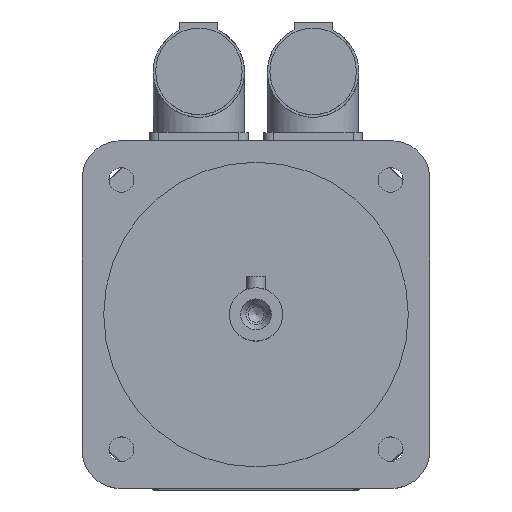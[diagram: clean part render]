
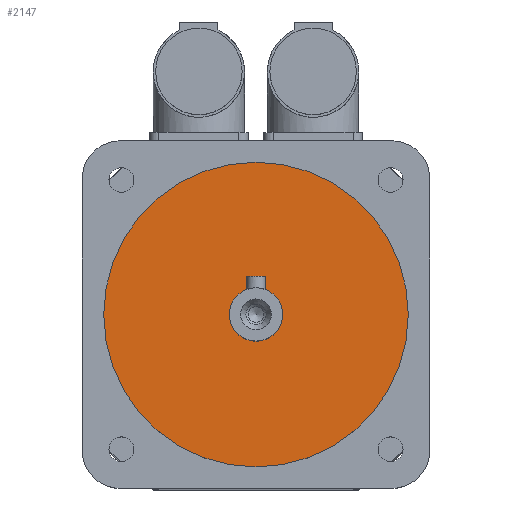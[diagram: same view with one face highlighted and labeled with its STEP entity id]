
A CAD part, top view. The second image highlights one B-rep face of the part: STEP entity #2147.
In plain terms, the highlighted planar face has unit normal (0, 0, 1).
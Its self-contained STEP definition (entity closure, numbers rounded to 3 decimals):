
#364=PLANE('',#2300);
#497=FACE_BOUND('',#679,.T.);
#533=FACE_OUTER_BOUND('',#678,.T.);
#678=EDGE_LOOP('',(#1534));
#679=EDGE_LOOP('',(#1535));
#830=CIRCLE('',#2299,7.);
#831=CIRCLE('',#2301,40.);
#978=VERTEX_POINT('',#3374);
#979=VERTEX_POINT('',#3377);
#1194=EDGE_CURVE('',#978,#978,#830,.T.);
#1195=EDGE_CURVE('',#979,#979,#831,.T.);
#1534=ORIENTED_EDGE('',*,*,#1195,.F.);
#1535=ORIENTED_EDGE('',*,*,#1194,.T.);
#2147=ADVANCED_FACE('',(#533,#497),#364,.T.);
#2299=AXIS2_PLACEMENT_3D('',#3375,#2624,#2625);
#2300=AXIS2_PLACEMENT_3D('',#3376,#2626,#2627);
#2301=AXIS2_PLACEMENT_3D('',#3378,#2628,#2629);
#2624=DIRECTION('center_axis',(0.,0.,-1.));
#2625=DIRECTION('ref_axis',(1.,0.,0.));
#2626=DIRECTION('center_axis',(0.,0.,1.));
#2627=DIRECTION('ref_axis',(1.,0.,0.));
#2628=DIRECTION('center_axis',(0.,0.,-1.));
#2629=DIRECTION('ref_axis',(1.,0.,0.));
#3374=CARTESIAN_POINT('',(0.,7.,203.));
#3375=CARTESIAN_POINT('Origin',(0.,0.,203.));
#3376=CARTESIAN_POINT('Origin',(0.,40.,203.));
#3377=CARTESIAN_POINT('',(0.,40.,203.));
#3378=CARTESIAN_POINT('Origin',(0.,0.,203.));
